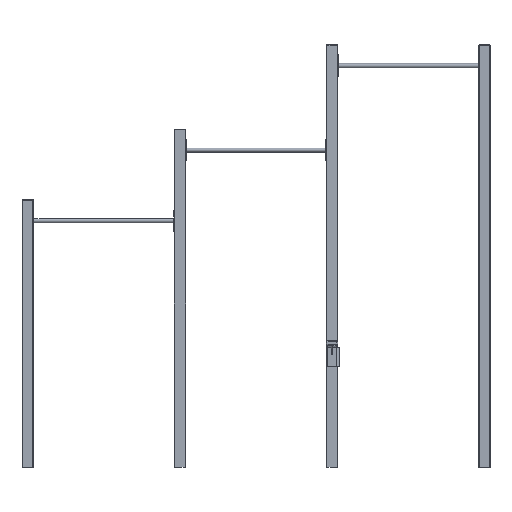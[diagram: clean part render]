
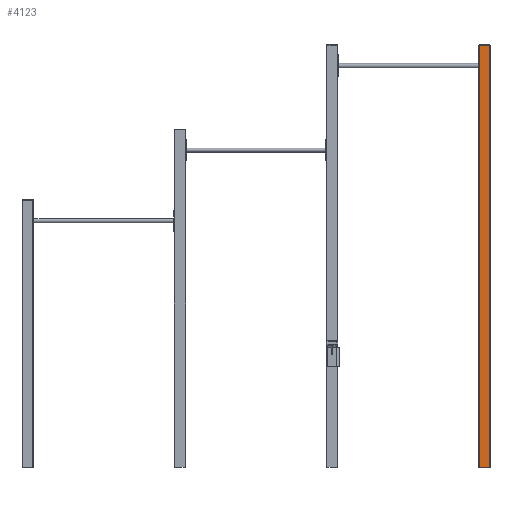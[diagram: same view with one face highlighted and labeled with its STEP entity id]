
A CAD part, top view. The second image highlights one B-rep face of the part: STEP entity #4123.
In plain terms, the highlighted planar face has unit normal (0, 0, 1).
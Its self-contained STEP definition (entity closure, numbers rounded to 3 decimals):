
#323=FACE_OUTER_BOUND('',#591,.T.);
#591=EDGE_LOOP('',(#3146,#3147,#3148,#3149));
#921=LINE('',#6501,#1302);
#939=LINE('',#6544,#1320);
#940=LINE('',#6547,#1321);
#941=LINE('',#6548,#1322);
#1302=VECTOR('',#5198,10.);
#1320=VECTOR('',#5238,10.);
#1321=VECTOR('',#5241,10.);
#1322=VECTOR('',#5242,10.);
#1885=VERTEX_POINT('',#6498);
#1886=VERTEX_POINT('',#6500);
#1900=VERTEX_POINT('',#6542);
#1901=VERTEX_POINT('',#6546);
#2329=EDGE_CURVE('',#1885,#1886,#921,.T.);
#2351=EDGE_CURVE('',#1885,#1900,#939,.T.);
#2352=EDGE_CURVE('',#1901,#1900,#940,.T.);
#2353=EDGE_CURVE('',#1886,#1901,#941,.T.);
#3146=ORIENTED_EDGE('',*,*,#2351,.T.);
#3147=ORIENTED_EDGE('',*,*,#2352,.F.);
#3148=ORIENTED_EDGE('',*,*,#2353,.F.);
#3149=ORIENTED_EDGE('',*,*,#2329,.F.);
#3954=PLANE('',#4473);
#4123=ADVANCED_FACE('',(#323),#3954,.T.);
#4473=AXIS2_PLACEMENT_3D('',#6545,#5239,#5240);
#5198=DIRECTION('',(-1.,0.,0.));
#5238=DIRECTION('',(0.,1.,0.));
#5239=DIRECTION('center_axis',(0.,0.,1.));
#5240=DIRECTION('ref_axis',(1.,0.,0.));
#5241=DIRECTION('',(1.,0.,0.));
#5242=DIRECTION('',(0.,1.,0.));
#6498=CARTESIAN_POINT('',(3027.744,-1117.359,40.));
#6500=CARTESIAN_POINT('',(2953.744,-1117.359,40.));
#6501=CARTESIAN_POINT('',(3027.744,-1117.359,40.));
#6542=CARTESIAN_POINT('',(3027.744,1877.641,40.));
#6544=CARTESIAN_POINT('',(3027.744,-572.359,40.));
#6545=CARTESIAN_POINT('Origin',(2953.744,-572.359,40.));
#6546=CARTESIAN_POINT('',(2953.744,1877.641,40.));
#6547=CARTESIAN_POINT('',(2953.744,1877.641,40.));
#6548=CARTESIAN_POINT('',(2953.744,-572.359,40.));
